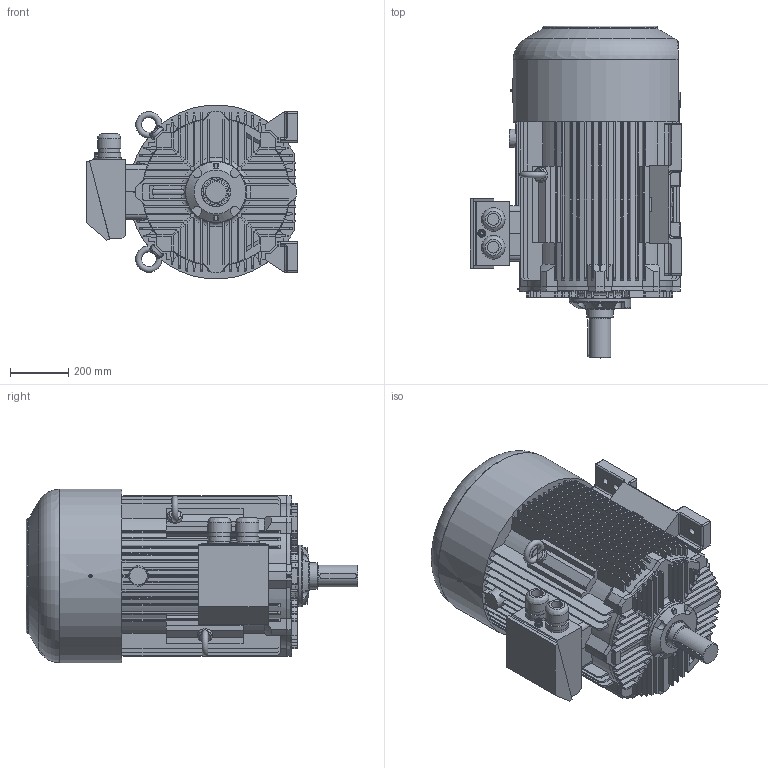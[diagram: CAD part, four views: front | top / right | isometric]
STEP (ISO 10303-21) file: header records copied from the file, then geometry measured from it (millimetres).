
FILE_DESCRIPTION( ( 'Unknown' ), '1' );
FILE_NAME( 'P:/3D_Bry³y silników skatalogowane/SIE/2SIE280/STP_2SIE280/2SIE280 M_S4_6.stp', 'Unknown', ( 'Unknown' ), ( 'Unknown' ), 'XStep 1.0', 'Unknown', ' ' );
FILE_SCHEMA( ( 'CONFIG_CONTROL_DESIGN' ) );
Length unit declared in the file: millimetre
Products named in the file (3): 1; 2; 3
Bounding box: 724.3 x 1134.98 x 594.39 mm (x, y, z)
Volume: 226666010.1 mm3; surface area: 4845889.3 mm2
Topology: 3 solids, 4 shells, 1414 faces, 3831 edges, 2420 vertices
Faces by surface type: plane 750, cylinder 390, torus 84, bspline 83, cone 67, sphere 40
Full cylindrical faces by diameter (mm): 1.6 x2, 5 x5, 11.083 x1, 19 x1, 20.752 x4, 21 x1, 23 x1, 24 x6, 27 x1, 40 x2, 50 x2, 71.32 x2, 75 x1, 78.781 x2, 80.024 x2, 81.268 x2, 89.1 x1, 98.8 x1, 100 x1, 208 x1, 210 x1
Entity records: 63023 total; most frequent: CARTESIAN_POINT 28296, ORIENTED_EDGE 7398, DIRECTION 7009, EDGE_CURVE 3699, AXIS2_PLACEMENT_3D 2440, VERTEX_POINT 2398, LINE 2129, VECTOR 2129
